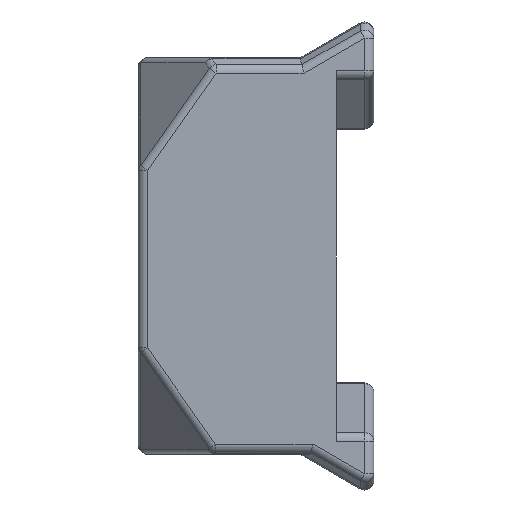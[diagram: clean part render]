
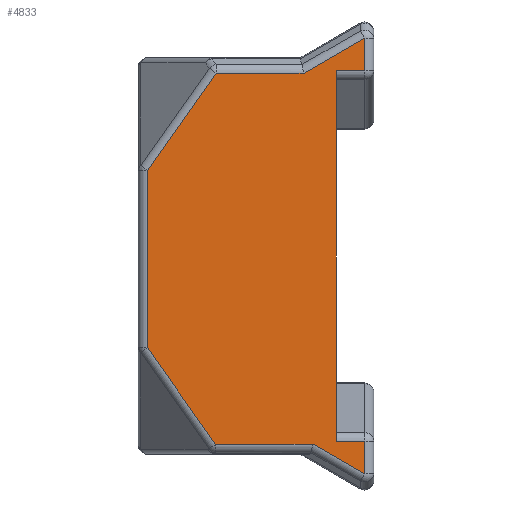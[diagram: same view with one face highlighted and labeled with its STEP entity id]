
A CAD part, left-side view. The second image highlights one B-rep face of the part: STEP entity #4833.
In plain terms, the highlighted planar face has unit normal (-1, 0, 0).
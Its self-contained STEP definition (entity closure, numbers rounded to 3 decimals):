
#40 = LINE ( 'NONE', #5597, #1201 ) ;
#125 = VERTEX_POINT ( 'NONE', #6138 ) ;
#129 = VERTEX_POINT ( 'NONE', #5593 ) ;
#287 = EDGE_CURVE ( 'NONE', #125, #670, #6408, .T. ) ;
#309 = CARTESIAN_POINT ( 'NONE',  ( 0., 35.018, -19.105 ) ) ;
#418 = EDGE_CURVE ( 'NONE', #129, #659, #483, .T. ) ;
#483 = LINE ( 'NONE', #5124, #5641 ) ;
#609 = ORIENTED_EDGE ( 'NONE', *, *, #2776, .T. ) ;
#659 = VERTEX_POINT ( 'NONE', #5016 ) ;
#670 = VERTEX_POINT ( 'NONE', #6045 ) ;
#672 = VECTOR ( 'NONE', #1705, 1000. ) ;
#760 = ORIENTED_EDGE ( 'NONE', *, *, #6426, .T. ) ;
#773 = VECTOR ( 'NONE', #1116, 1000. ) ;
#828 = LINE ( 'NONE', #5443, #6287 ) ;
#866 = VERTEX_POINT ( 'NONE', #1393 ) ;
#1051 = AXIS2_PLACEMENT_3D ( 'NONE', #6334, #4350, #1357 ) ;
#1116 = DIRECTION ( 'NONE',  ( 0., -1., 0. ) ) ;
#1125 = DIRECTION ( 'NONE',  ( 0., -1., 0. ) ) ;
#1201 = VECTOR ( 'NONE', #1125, 1000. ) ;
#1224 = DIRECTION ( 'NONE',  ( 0., 1., 0. ) ) ;
#1232 = LINE ( 'NONE', #1555, #3720 ) ;
#1314 = VECTOR ( 'NONE', #3923, 1000. ) ;
#1357 = DIRECTION ( 'NONE',  ( 0., 0., -1. ) ) ;
#1393 = CARTESIAN_POINT ( 'NONE',  ( 0., 24., -34.687 ) ) ;
#1492 = LINE ( 'NONE', #4913, #1314 ) ;
#1546 = EDGE_LOOP ( 'NONE', ( #2437, #1700, #1726, #5247, #760, #6106, #609, #4281, #4934, #4417, #1786, #2031 ) ) ;
#1555 = CARTESIAN_POINT ( 'NONE',  ( 0., 4., -44.598 ) ) ;
#1634 = CARTESIAN_POINT ( 'NONE',  ( 0., 1., -44.598 ) ) ;
#1650 = VECTOR ( 'NONE', #3791, 1000. ) ;
#1700 = ORIENTED_EDGE ( 'NONE', *, *, #5711, .T. ) ;
#1705 = DIRECTION ( 'NONE',  ( 0., 0., -1. ) ) ;
#1726 = ORIENTED_EDGE ( 'NONE', *, *, #1773, .T. ) ;
#1773 = EDGE_CURVE ( 'NONE', #4524, #6158, #1232, .T. ) ;
#1786 = ORIENTED_EDGE ( 'NONE', *, *, #5611, .T. ) ;
#1790 = CARTESIAN_POINT ( 'NONE',  ( 0., -0.309, -48.787 ) ) ;
#1795 = LINE ( 'NONE', #309, #1650 ) ;
#1856 = DIRECTION ( 'NONE',  ( 0., -0.866, -0.5 ) ) ;
#1962 = DIRECTION ( 'NONE',  ( 0., 0.866, -0.5 ) ) ;
#2004 = VERTEX_POINT ( 'NONE', #5023 ) ;
#2031 = ORIENTED_EDGE ( 'NONE', *, *, #3370, .T. ) ;
#2335 = CARTESIAN_POINT ( 'NONE',  ( 0., 1., -1.291 ) ) ;
#2421 = EDGE_CURVE ( 'NONE', #4322, #2004, #6111, .T. ) ;
#2437 = ORIENTED_EDGE ( 'NONE', *, *, #287, .T. ) ;
#2579 = VERTEX_POINT ( 'NONE', #5264 ) ;
#2776 = EDGE_CURVE ( 'NONE', #2004, #2579, #828, .T. ) ;
#2999 = CARTESIAN_POINT ( 'NONE',  ( 0., 4., -5.302 ) ) ;
#3036 = DIRECTION ( 'NONE',  ( 0., 1., 0. ) ) ;
#3279 = LINE ( 'NONE', #4099, #773 ) ;
#3370 = EDGE_CURVE ( 'NONE', #5558, #125, #40, .T. ) ;
#3415 = LINE ( 'NONE', #3703, #4198 ) ;
#3701 = EDGE_CURVE ( 'NONE', #659, #866, #5663, .T. ) ;
#3703 = CARTESIAN_POINT ( 'NONE',  ( 0., 16.293, -5.568 ) ) ;
#3720 = VECTOR ( 'NONE', #3036, 1000. ) ;
#3737 = VECTOR ( 'NONE', #1856, 1000. ) ;
#3791 = DIRECTION ( 'NONE',  ( 0., -0.577, -0.816 ) ) ;
#3793 = DIRECTION ( 'NONE',  ( 0., 0., -1. ) ) ;
#3843 = PLANE ( 'NONE',  #1051 ) ;
#3923 = DIRECTION ( 'NONE',  ( 0., 0., 1. ) ) ;
#3948 = LINE ( 'NONE', #4824, #5280 ) ;
#3981 = DIRECTION ( 'NONE',  ( 0., 0.577, -0.816 ) ) ;
#4099 = CARTESIAN_POINT ( 'NONE',  ( 0., 0., -5.302 ) ) ;
#4198 = VECTOR ( 'NONE', #1224, 1000. ) ;
#4206 = EDGE_CURVE ( 'NONE', #4384, #6158, #3948, .T. ) ;
#4281 = ORIENTED_EDGE ( 'NONE', *, *, #4683, .T. ) ;
#4322 = VERTEX_POINT ( 'NONE', #6429 ) ;
#4350 = DIRECTION ( 'NONE',  ( 1., 0., 0. ) ) ;
#4384 = VERTEX_POINT ( 'NONE', #2999 ) ;
#4417 = ORIENTED_EDGE ( 'NONE', *, *, #3701, .T. ) ;
#4524 = VERTEX_POINT ( 'NONE', #1634 ) ;
#4606 = FACE_OUTER_BOUND ( 'NONE', #1546, .T. ) ;
#4683 = EDGE_CURVE ( 'NONE', #2579, #129, #3415, .T. ) ;
#4692 = CARTESIAN_POINT ( 'NONE',  ( 0., 24., -34.272 ) ) ;
#4824 = CARTESIAN_POINT ( 'NONE',  ( 0., 4., -38.4 ) ) ;
#4833 = ADVANCED_FACE ( 'NONE', ( #4606 ), #3843, .F. ) ;
#4913 = CARTESIAN_POINT ( 'NONE',  ( 0., 1., -44.598 ) ) ;
#4934 = ORIENTED_EDGE ( 'NONE', *, *, #418, .T. ) ;
#5016 = CARTESIAN_POINT ( 'NONE',  ( 0., 24., -15.849 ) ) ;
#5023 = CARTESIAN_POINT ( 'NONE',  ( 0., 1., -1.868 ) ) ;
#5124 = CARTESIAN_POINT ( 'NONE',  ( 0., 11.195, 2.259 ) ) ;
#5247 = ORIENTED_EDGE ( 'NONE', *, *, #4206, .F. ) ;
#5264 = CARTESIAN_POINT ( 'NONE',  ( 0., 7.408, -5.568 ) ) ;
#5280 = VECTOR ( 'NONE', #3793, 1000. ) ;
#5327 = DIRECTION ( 'NONE',  ( 0., 0., 1. ) ) ;
#5443 = CARTESIAN_POINT ( 'NONE',  ( 0., 7.265, -5.485 ) ) ;
#5558 = VERTEX_POINT ( 'NONE', #6251 ) ;
#5593 = CARTESIAN_POINT ( 'NONE',  ( 0., 16.73, -5.568 ) ) ;
#5597 = CARTESIAN_POINT ( 'NONE',  ( 0., 5.236, -44.886 ) ) ;
#5611 = EDGE_CURVE ( 'NONE', #866, #5558, #1795, .T. ) ;
#5640 = VECTOR ( 'NONE', #5327, 1000. ) ;
#5641 = VECTOR ( 'NONE', #3981, 1000. ) ;
#5663 = LINE ( 'NONE', #4692, #672 ) ;
#5711 = EDGE_CURVE ( 'NONE', #670, #4524, #1492, .T. ) ;
#6045 = CARTESIAN_POINT ( 'NONE',  ( 0., 1., -48.032 ) ) ;
#6106 = ORIENTED_EDGE ( 'NONE', *, *, #2421, .T. ) ;
#6111 = LINE ( 'NONE', #2335, #5640 ) ;
#6138 = CARTESIAN_POINT ( 'NONE',  ( 0., 6.449, -44.886 ) ) ;
#6158 = VERTEX_POINT ( 'NONE', #6320 ) ;
#6251 = CARTESIAN_POINT ( 'NONE',  ( 0., 16.788, -44.886 ) ) ;
#6287 = VECTOR ( 'NONE', #1962, 1000. ) ;
#6320 = CARTESIAN_POINT ( 'NONE',  ( 0., 4., -44.598 ) ) ;
#6334 = CARTESIAN_POINT ( 'NONE',  ( 0., 8., 0. ) ) ;
#6408 = LINE ( 'NONE', #1790, #3737 ) ;
#6426 = EDGE_CURVE ( 'NONE', #4384, #4322, #3279, .T. ) ;
#6429 = CARTESIAN_POINT ( 'NONE',  ( 0., 1., -5.302 ) ) ;
